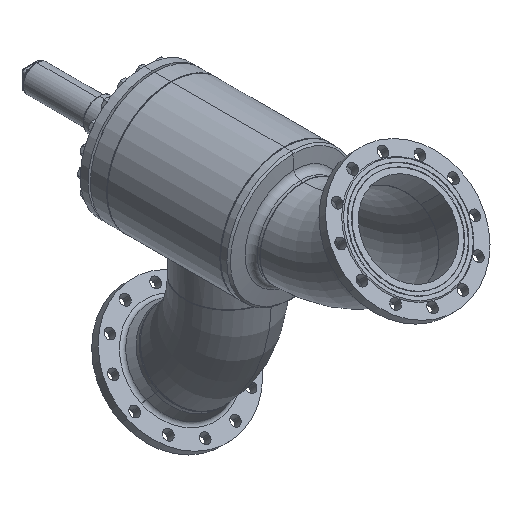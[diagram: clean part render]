
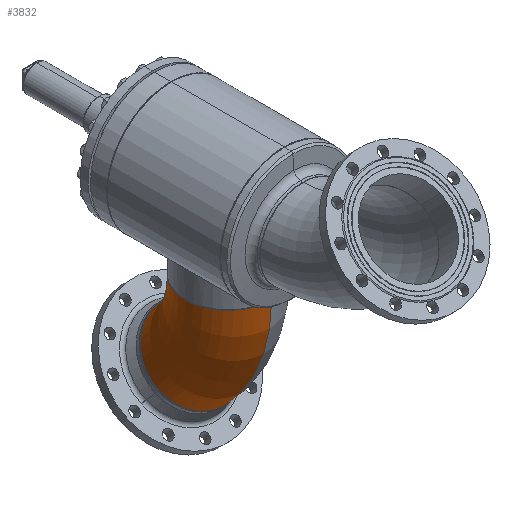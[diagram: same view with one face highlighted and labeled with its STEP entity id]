
A CAD part, isometric view. The second image highlights one B-rep face of the part: STEP entity #3832.
In plain terms, the highlighted toroidal (fillet/blend) face has major radius 381 mm and minor radius 136.5 mm.
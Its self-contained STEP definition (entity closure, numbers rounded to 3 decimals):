
#214 = VERTEX_POINT ( 'NONE', #16008 ) ;
#630 = VERTEX_POINT ( 'NONE', #16251 ) ;
#18210 = CIRCLE ( 'NONE', #18229, 244.5 ) ;
#18229 = AXIS2_PLACEMENT_3D ( 'NONE', #18230, #18231, #18232 ) ;
#18230 = CARTESIAN_POINT ( 'NONE',  ( 0., -381., 0. ) ) ;
#18231 = DIRECTION ( 'NONE',  ( 0., 0., 1. ) ) ;
#18232 = DIRECTION ( 'NONE',  ( 1., 0., 0. ) ) ;
#2370 = EDGE_CURVE ( 'NONE', #214, #20080, #18210, .T. ) ;
#2798 = CIRCLE ( 'NONE', #2799, 136.5 ) ;
#2799 = AXIS2_PLACEMENT_3D ( 'NONE', #2803, #2804, #2805 ) ;
#2803 = CARTESIAN_POINT ( 'NONE',  ( 0., 0., 0. ) ) ;
#2804 = DIRECTION ( 'NONE',  ( 1., 0., 0. ) ) ;
#2805 = DIRECTION ( 'NONE',  ( 0., 0., -1. ) ) ;
#3578 = EDGE_LOOP ( 'NONE', ( #7670, #7120, #6185, #5638 ) ) ;
#20080 = VERTEX_POINT ( 'NONE', #9676 ) ;
#3832 = ADVANCED_FACE ( 'NONE', ( #20404 ), #20405, .T. ) ;
#20404 = FACE_OUTER_BOUND ( 'NONE', #3578, .T. ) ;
#20405 = TOROIDAL_SURFACE ( 'NONE', #20406, 381., 136.5 ) ;
#20406 = AXIS2_PLACEMENT_3D ( 'NONE', #20407, #20408, #20409 ) ;
#20407 = CARTESIAN_POINT ( 'NONE',  ( 0., -381., 0. ) ) ;
#20408 = DIRECTION ( 'NONE',  ( 0., 0., 1. ) ) ;
#20409 = DIRECTION ( 'NONE',  ( 1., 0., 0. ) ) ;
#4968 = CIRCLE ( 'NONE', #4969, 136.5 ) ;
#4969 = AXIS2_PLACEMENT_3D ( 'NONE', #4970, #4971, #4972 ) ;
#4970 = CARTESIAN_POINT ( 'NONE',  ( 269.408, -111.592, 0. ) ) ;
#4971 = DIRECTION ( 'NONE',  ( 0.707, -0.707, 0. ) ) ;
#4972 = DIRECTION ( 'NONE',  ( 0., 0., -1. ) ) ;
#5230 = EDGE_CURVE ( 'NONE', #20080, #22512, #2798, .T. ) ;
#5638 = ORIENTED_EDGE ( 'NONE', *, *, #5230, .T. ) ;
#22512 = VERTEX_POINT ( 'NONE', #11429 ) ;
#6185 = ORIENTED_EDGE ( 'NONE', *, *, #2370, .T. ) ;
#22931 = EDGE_CURVE ( 'NONE', #630, #22512, #11686, .T. ) ;
#6735 = EDGE_CURVE ( 'NONE', #214, #630, #4968, .T. ) ;
#7120 = ORIENTED_EDGE ( 'NONE', *, *, #6735, .F. ) ;
#7670 = ORIENTED_EDGE ( 'NONE', *, *, #22931, .F. ) ;
#9676 = CARTESIAN_POINT ( 'NONE',  ( 0., -136.5, 0. ) ) ;
#11429 = CARTESIAN_POINT ( 'NONE',  ( 0., 136.5, 0. ) ) ;
#11686 = CIRCLE ( 'NONE', #11687, 517.5 ) ;
#11687 = AXIS2_PLACEMENT_3D ( 'NONE', #11688, #11689, #11690 ) ;
#11688 = CARTESIAN_POINT ( 'NONE',  ( 0., -381., 0. ) ) ;
#11689 = DIRECTION ( 'NONE',  ( 0., 0., 1. ) ) ;
#11690 = DIRECTION ( 'NONE',  ( 1., 0., 0. ) ) ;
#16008 = CARTESIAN_POINT ( 'NONE',  ( 172.888, -208.112, 0. ) ) ;
#16251 = CARTESIAN_POINT ( 'NONE',  ( 365.928, -15.072, 0. ) ) ;
